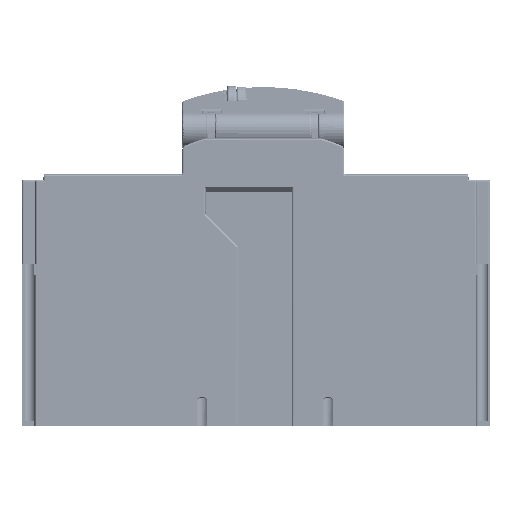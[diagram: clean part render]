
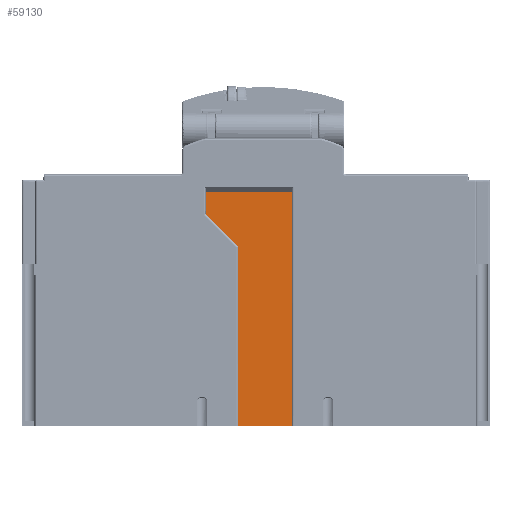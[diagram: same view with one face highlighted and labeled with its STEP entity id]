
A CAD part, left-side view. The second image highlights one B-rep face of the part: STEP entity #59130.
In plain terms, the highlighted planar face has unit normal (-1, 0, 0).
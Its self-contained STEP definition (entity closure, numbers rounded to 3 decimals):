
#48825 = EDGE_LOOP ( 'NONE', ( #92320, #90212, #88669, #91384, #348276, #347952 ) ) ;
#59130 = ADVANCED_FACE ( 'NONE', ( #173465 ), #173516, .F. ) ;
#88669 = ORIENTED_EDGE ( 'NONE', *, *, #310301, .F. ) ;
#90212 = ORIENTED_EDGE ( 'NONE', *, *, #315306, .F. ) ;
#90587 = VERTEX_POINT ( 'NONE', #204107 ) ;
#90634 = VERTEX_POINT ( 'NONE', #204145 ) ;
#91384 = ORIENTED_EDGE ( 'NONE', *, *, #310313, .F. ) ;
#92320 = ORIENTED_EDGE ( 'NONE', *, *, #312983, .F. ) ;
#100423 = VERTEX_POINT ( 'NONE', #199964 ) ;
#100675 = VERTEX_POINT ( 'NONE', #200770 ) ;
#101408 = VERTEX_POINT ( 'NONE', #297750 ) ;
#101580 = VERTEX_POINT ( 'NONE', #298322 ) ;
#169406 = AXIS2_PLACEMENT_3D ( 'NONE', #173554, #173558, #173561 ) ;
#173465 = FACE_OUTER_BOUND ( 'NONE', #48825, .T. ) ;
#173516 = PLANE ( 'NONE',  #169406 ) ;
#173554 = CARTESIAN_POINT ( 'NONE',  ( -111.775, 7.155, -53.855 ) ) ;
#173558 = DIRECTION ( 'NONE',  ( 1., 0., 0. ) ) ;
#173561 = DIRECTION ( 'NONE',  ( 0., 0., -1. ) ) ;
#189816 = LINE ( 'NONE', #189818, #328574 ) ;
#189818 = CARTESIAN_POINT ( 'NONE',  ( -111.775, 67.155, -53.655 ) ) ;
#189831 = DIRECTION ( 'NONE',  ( 0., 1., 0. ) ) ;
#199964 = CARTESIAN_POINT ( 'NONE',  ( -111.775, -7.845, 11.145 ) ) ;
#200770 = CARTESIAN_POINT ( 'NONE',  ( -111.775, 16.155, 11.145 ) ) ;
#204107 = CARTESIAN_POINT ( 'NONE',  ( -111.775, 16.155, 5.145 ) ) ;
#204145 = CARTESIAN_POINT ( 'NONE',  ( -111.775, -7.845, -53.655 ) ) ;
#247964 = LINE ( 'NONE', #248002, #331900 ) ;
#248002 = CARTESIAN_POINT ( 'NONE',  ( -111.775, 16.155, -53.855 ) ) ;
#248012 = DIRECTION ( 'NONE',  ( 0., 0., 1. ) ) ;
#256259 = VECTOR ( 'NONE', #348844, 1000. ) ;
#294191 = EDGE_CURVE ( 'NONE', #90634, #101580, #189816, .T. ) ;
#297750 = CARTESIAN_POINT ( 'NONE',  ( -111.775, 7.155, -3.855 ) ) ;
#298322 = CARTESIAN_POINT ( 'NONE',  ( -111.775, 7.155, -53.655 ) ) ;
#310294 = EDGE_CURVE ( 'NONE', #100423, #90634, #313042, .T. ) ;
#310301 = EDGE_CURVE ( 'NONE', #101408, #90587, #313010, .T. ) ;
#310313 = EDGE_CURVE ( 'NONE', #101580, #101408, #313104, .T. ) ;
#312983 = EDGE_CURVE ( 'NONE', #100675, #100423, #348839, .T. ) ;
#313010 = LINE ( 'NONE', #313063, #329093 ) ;
#313042 = LINE ( 'NONE', #313047, #329091 ) ;
#313047 = CARTESIAN_POINT ( 'NONE',  ( -111.775, -7.845, -53.855 ) ) ;
#313049 = DIRECTION ( 'NONE',  ( 0., 0., -1. ) ) ;
#313063 = CARTESIAN_POINT ( 'NONE',  ( -111.775, 7.155, -3.855 ) ) ;
#313070 = DIRECTION ( 'NONE',  ( 0., 0.707, 0.707 ) ) ;
#313104 = LINE ( 'NONE', #313110, #329103 ) ;
#313110 = CARTESIAN_POINT ( 'NONE',  ( -111.775, 7.155, -53.855 ) ) ;
#313113 = DIRECTION ( 'NONE',  ( 0., 0., 1. ) ) ;
#315306 = EDGE_CURVE ( 'NONE', #90587, #100675, #247964, .T. ) ;
#328574 = VECTOR ( 'NONE', #189831, 1000. ) ;
#329091 = VECTOR ( 'NONE', #313049, 1000. ) ;
#329093 = VECTOR ( 'NONE', #313070, 1000. ) ;
#329103 = VECTOR ( 'NONE', #313113, 1000. ) ;
#331900 = VECTOR ( 'NONE', #248012, 1000. ) ;
#347952 = ORIENTED_EDGE ( 'NONE', *, *, #310294, .F. ) ;
#348276 = ORIENTED_EDGE ( 'NONE', *, *, #294191, .F. ) ;
#348839 = LINE ( 'NONE', #348842, #256259 ) ;
#348842 = CARTESIAN_POINT ( 'NONE',  ( -111.775, 7.155, 11.145 ) ) ;
#348844 = DIRECTION ( 'NONE',  ( 0., -1., 0. ) ) ;
